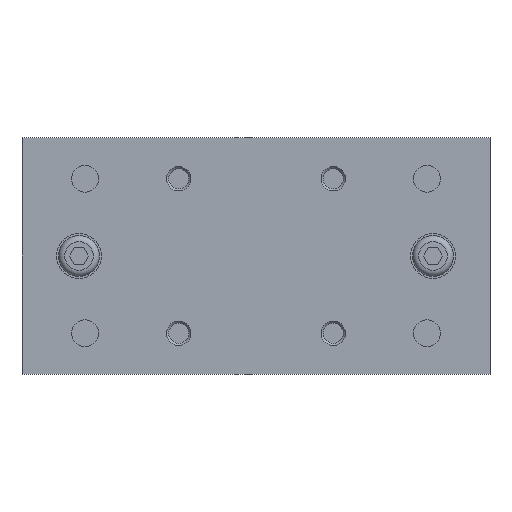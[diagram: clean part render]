
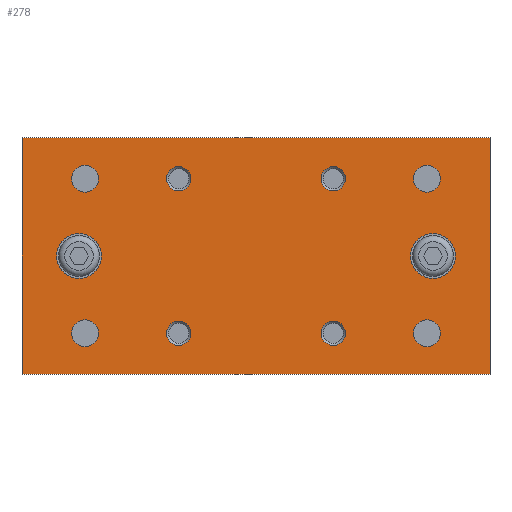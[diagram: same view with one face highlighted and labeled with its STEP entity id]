
A CAD part, left-side view. The second image highlights one B-rep face of the part: STEP entity #278.
In plain terms, the highlighted planar face has unit normal (-1, 0, 0).
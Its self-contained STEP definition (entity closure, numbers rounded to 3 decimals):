
#278 = ADVANCED_FACE( '', ( #671, #672, #673, #674, #675, #676, #677, #678, #679, #680, #681 ), #682, .F. );
#671 = FACE_BOUND( '', #1208, .T. );
#672 = FACE_BOUND( '', #1209, .T. );
#673 = FACE_BOUND( '', #1210, .T. );
#674 = FACE_BOUND( '', #1211, .T. );
#675 = FACE_BOUND( '', #1212, .T. );
#676 = FACE_BOUND( '', #1213, .T. );
#677 = FACE_BOUND( '', #1214, .T. );
#678 = FACE_BOUND( '', #1215, .T. );
#679 = FACE_BOUND( '', #1216, .T. );
#680 = FACE_BOUND( '', #1217, .T. );
#681 = FACE_OUTER_BOUND( '', #1218, .T. );
#682 = PLANE( '', #1219 );
#1208 = EDGE_LOOP( '', ( #1936 ) );
#1209 = EDGE_LOOP( '', ( #1937 ) );
#1210 = EDGE_LOOP( '', ( #1938 ) );
#1211 = EDGE_LOOP( '', ( #1939 ) );
#1212 = EDGE_LOOP( '', ( #1940 ) );
#1213 = EDGE_LOOP( '', ( #1941 ) );
#1214 = EDGE_LOOP( '', ( #1942 ) );
#1215 = EDGE_LOOP( '', ( #1943 ) );
#1216 = EDGE_LOOP( '', ( #1944 ) );
#1217 = EDGE_LOOP( '', ( #1945 ) );
#1218 = EDGE_LOOP( '', ( #1946, #1947, #1948, #1949 ) );
#1219 = AXIS2_PLACEMENT_3D( '', #1950, #1951, #1952 );
#1936 = ORIENTED_EDGE( '', *, *, #2663, .F. );
#1937 = ORIENTED_EDGE( '', *, *, #2664, .F. );
#1938 = ORIENTED_EDGE( '', *, *, #2665, .T. );
#1939 = ORIENTED_EDGE( '', *, *, #2516, .T. );
#1940 = ORIENTED_EDGE( '', *, *, #2666, .T. );
#1941 = ORIENTED_EDGE( '', *, *, #2667, .T. );
#1942 = ORIENTED_EDGE( '', *, *, #2453, .T. );
#1943 = ORIENTED_EDGE( '', *, *, #2596, .T. );
#1944 = ORIENTED_EDGE( '', *, *, #2668, .T. );
#1945 = ORIENTED_EDGE( '', *, *, #2669, .T. );
#1946 = ORIENTED_EDGE( '', *, *, #2614, .T. );
#1947 = ORIENTED_EDGE( '', *, *, #2670, .F. );
#1948 = ORIENTED_EDGE( '', *, *, #2671, .F. );
#1949 = ORIENTED_EDGE( '', *, *, #2642, .T. );
#1950 = CARTESIAN_POINT( '', ( -96., 57.5, 29. ) );
#1951 = DIRECTION( '', ( 1., 0., 0. ) );
#1952 = DIRECTION( '', ( 0., 0., -1. ) );
#2453 = EDGE_CURVE( '', #2804, #2804, #2805, .T. );
#2516 = EDGE_CURVE( '', #2912, #2912, #2913, .T. );
#2596 = EDGE_CURVE( '', #3033, #3033, #3034, .T. );
#2614 = EDGE_CURVE( '', #3063, #3064, #3065, .T. );
#2642 = EDGE_CURVE( '', #3105, #3063, #3106, .T. );
#2663 = EDGE_CURVE( '', #3136, #3136, #3137, .F. );
#2664 = EDGE_CURVE( '', #3138, #3138, #3139, .F. );
#2665 = EDGE_CURVE( '', #3140, #3140, #3141, .T. );
#2666 = EDGE_CURVE( '', #3142, #3142, #3143, .T. );
#2667 = EDGE_CURVE( '', #3144, #3144, #3145, .T. );
#2668 = EDGE_CURVE( '', #3146, #3146, #3147, .T. );
#2669 = EDGE_CURVE( '', #3148, #3148, #3149, .T. );
#2670 = EDGE_CURVE( '', #3150, #3064, #3151, .T. );
#2671 = EDGE_CURVE( '', #3105, #3150, #3152, .T. );
#2804 = VERTEX_POINT( '', #3304 );
#2805 = CIRCLE( '', #3305, 3. );
#2912 = VERTEX_POINT( '', #3438 );
#2913 = CIRCLE( '', #3439, 3. );
#3033 = VERTEX_POINT( '', #3581 );
#3034 = CIRCLE( '', #3582, 3. );
#3063 = VERTEX_POINT( '', #3621 );
#3064 = VERTEX_POINT( '', #3622 );
#3065 = LINE( '', #3623, #3624 );
#3105 = VERTEX_POINT( '', #3672 );
#3106 = LINE( '', #3673, #3674 );
#3136 = VERTEX_POINT( '', #3709 );
#3137 = CIRCLE( '', #3710, 5.5 );
#3138 = VERTEX_POINT( '', #3711 );
#3139 = CIRCLE( '', #3712, 5.5 );
#3140 = VERTEX_POINT( '', #3713 );
#3141 = CIRCLE( '', #3714, 3. );
#3142 = VERTEX_POINT( '', #3715 );
#3143 = CIRCLE( '', #3716, 3.3 );
#3144 = VERTEX_POINT( '', #3717 );
#3145 = CIRCLE( '', #3718, 3.3 );
#3146 = VERTEX_POINT( '', #3719 );
#3147 = CIRCLE( '', #3720, 3.3 );
#3148 = VERTEX_POINT( '', #3721 );
#3149 = CIRCLE( '', #3722, 3.3 );
#3150 = VERTEX_POINT( '', #3723 );
#3151 = LINE( '', #3724, #3725 );
#3152 = LINE( '', #3726, #3727 );
#3304 = CARTESIAN_POINT( '', ( -96., -19., 16. ) );
#3305 = AXIS2_PLACEMENT_3D( '', #3897, #3898, #3899 );
#3438 = CARTESIAN_POINT( '', ( -96., 19., -22. ) );
#3439 = AXIS2_PLACEMENT_3D( '', #3986, #3987, #3988 );
#3581 = CARTESIAN_POINT( '', ( -96., 19., 16. ) );
#3582 = AXIS2_PLACEMENT_3D( '', #4095, #4096, #4097 );
#3621 = CARTESIAN_POINT( '', ( -96., 57.5, -29. ) );
#3622 = CARTESIAN_POINT( '', ( -96., -57.5, -29. ) );
#3623 = CARTESIAN_POINT( '', ( -96., 57.5, -29. ) );
#3624 = VECTOR( '', #4120, 1000. );
#3672 = CARTESIAN_POINT( '', ( -96., 57.5, 29. ) );
#3673 = CARTESIAN_POINT( '', ( -96., 57.5, 29. ) );
#3674 = VECTOR( '', #4153, 1000. );
#3709 = CARTESIAN_POINT( '', ( -96., -43.5, -5.5 ) );
#3710 = AXIS2_PLACEMENT_3D( '', #4180, #4181, #4182 );
#3711 = CARTESIAN_POINT( '', ( -96., 43.5, -5.5 ) );
#3712 = AXIS2_PLACEMENT_3D( '', #4183, #4184, #4185 );
#3713 = CARTESIAN_POINT( '', ( -96., -19., -22. ) );
#3714 = AXIS2_PLACEMENT_3D( '', #4186, #4187, #4188 );
#3715 = CARTESIAN_POINT( '', ( -96., -42., -22.3 ) );
#3716 = AXIS2_PLACEMENT_3D( '', #4189, #4190, #4191 );
#3717 = CARTESIAN_POINT( '', ( -96., 42., -22.3 ) );
#3718 = AXIS2_PLACEMENT_3D( '', #4192, #4193, #4194 );
#3719 = CARTESIAN_POINT( '', ( -96., -42., 15.7 ) );
#3720 = AXIS2_PLACEMENT_3D( '', #4195, #4196, #4197 );
#3721 = CARTESIAN_POINT( '', ( -96., 42., 15.7 ) );
#3722 = AXIS2_PLACEMENT_3D( '', #4198, #4199, #4200 );
#3723 = CARTESIAN_POINT( '', ( -96., -57.5, 29. ) );
#3724 = CARTESIAN_POINT( '', ( -96., -57.5, 29. ) );
#3725 = VECTOR( '', #4201, 1000. );
#3726 = CARTESIAN_POINT( '', ( -96., 57.5, 29. ) );
#3727 = VECTOR( '', #4202, 1000. );
#3897 = CARTESIAN_POINT( '', ( -96., -19., 19. ) );
#3898 = DIRECTION( '', ( 1., 0., 0. ) );
#3899 = DIRECTION( '', ( 0., 0., -1. ) );
#3986 = CARTESIAN_POINT( '', ( -96., 19., -19. ) );
#3987 = DIRECTION( '', ( 1., 0., 0. ) );
#3988 = DIRECTION( '', ( 0., 0., -1. ) );
#4095 = CARTESIAN_POINT( '', ( -96., 19., 19. ) );
#4096 = DIRECTION( '', ( 1., 0., 0. ) );
#4097 = DIRECTION( '', ( 0., 0., -1. ) );
#4120 = DIRECTION( '', ( 0., -1., 0. ) );
#4153 = DIRECTION( '', ( 0., 0., -1. ) );
#4180 = CARTESIAN_POINT( '', ( -96., -43.5, 0. ) );
#4181 = DIRECTION( '', ( 1., 0., 0. ) );
#4182 = DIRECTION( '', ( 0., 0., -1. ) );
#4183 = CARTESIAN_POINT( '', ( -96., 43.5, 0. ) );
#4184 = DIRECTION( '', ( 1., 0., 0. ) );
#4185 = DIRECTION( '', ( 0., 0., -1. ) );
#4186 = CARTESIAN_POINT( '', ( -96., -19., -19. ) );
#4187 = DIRECTION( '', ( 1., 0., 0. ) );
#4188 = DIRECTION( '', ( 0., 0., -1. ) );
#4189 = CARTESIAN_POINT( '', ( -96., -42., -19. ) );
#4190 = DIRECTION( '', ( 1., 0., 0. ) );
#4191 = DIRECTION( '', ( 0., 0., -1. ) );
#4192 = CARTESIAN_POINT( '', ( -96., 42., -19. ) );
#4193 = DIRECTION( '', ( 1., 0., 0. ) );
#4194 = DIRECTION( '', ( 0., 0., -1. ) );
#4195 = CARTESIAN_POINT( '', ( -96., -42., 19. ) );
#4196 = DIRECTION( '', ( 1., 0., 0. ) );
#4197 = DIRECTION( '', ( 0., 0., -1. ) );
#4198 = CARTESIAN_POINT( '', ( -96., 42., 19. ) );
#4199 = DIRECTION( '', ( 1., 0., 0. ) );
#4200 = DIRECTION( '', ( 0., 0., -1. ) );
#4201 = DIRECTION( '', ( 0., 0., -1. ) );
#4202 = DIRECTION( '', ( 0., -1., 0. ) );
